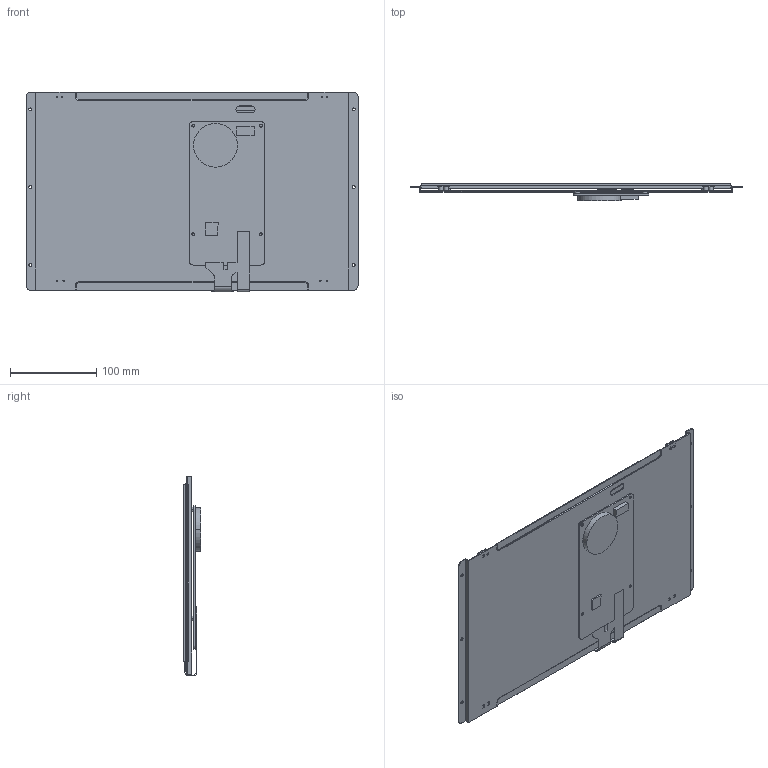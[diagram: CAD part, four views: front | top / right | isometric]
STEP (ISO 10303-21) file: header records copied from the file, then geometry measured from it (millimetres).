
FILE_DESCRIPTION((''),'2;1');
FILE_NAME('3D-DMG13768C156_03WTC-220315','2022-03-15T',('Administrator'),(''),'PRO/ENGINEER BY PARAMETRIC TECHNOLOGY CORPORATION, 2008380','PRO/ENGINEER BY PARAMETRIC TECHNOLOGY CORPORATION, 2008380','');
FILE_SCHEMA(('CONFIG_CONTROL_DESIGN'));
Length unit declared in the file: millimetre
Products named in the file (1): 3D-DMG13768C156_03WTC-220315
Bounding box: 384.1 x 20.2 x 231 mm (x, y, z)
Volume: 535633.1 mm3; surface area: 526068.8 mm2
Topology: 1 solids, 2 shells, 313 faces, 858 edges, 580 vertices
Faces by surface type: plane 153, cylinder 138, bspline 14, torus 8
Entity records: 10414 total; most frequent: CARTESIAN_POINT 2072, DIRECTION 1734, ORIENTED_EDGE 1702, EDGE_CURVE 851, AXIS2_PLACEMENT_3D 604, VERTEX_POINT 570, VECTOR 526, LINE 526
